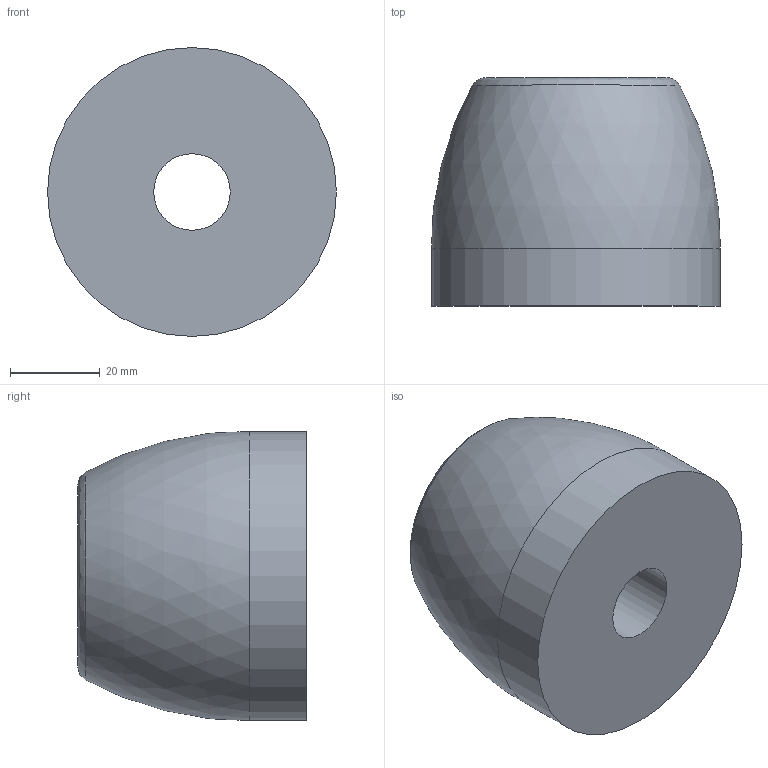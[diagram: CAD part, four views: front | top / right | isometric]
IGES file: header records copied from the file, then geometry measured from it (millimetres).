
Global section: file name: No Iges File Name specified; native system: AutoDesk Inventor R6.0; preprocessor: AutoDesk Inventor Iges Exporter R6.0; author: No Author specified; organization: No Organization specified; date: 20080103.165324; units: inch
Bounding box: 64.26 x 50.8 x 64.26 mm (x, y, z)
Surface area: 17497 mm2 (no closed solid volume)
Topology: 0 solids, 0 shells, 8 faces, 21 edges, 16 vertices
Faces by surface type: revolution 4, plane 3, bspline 1
